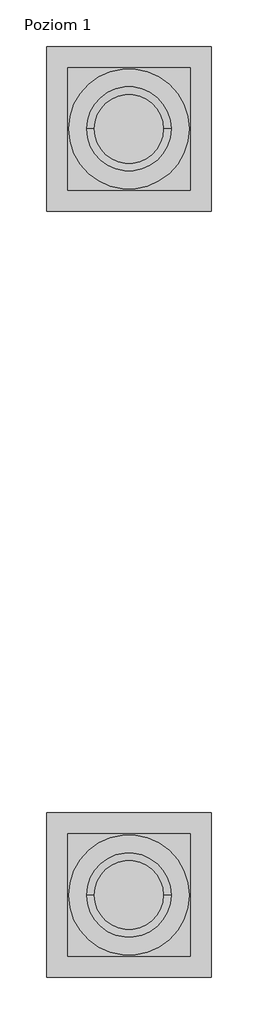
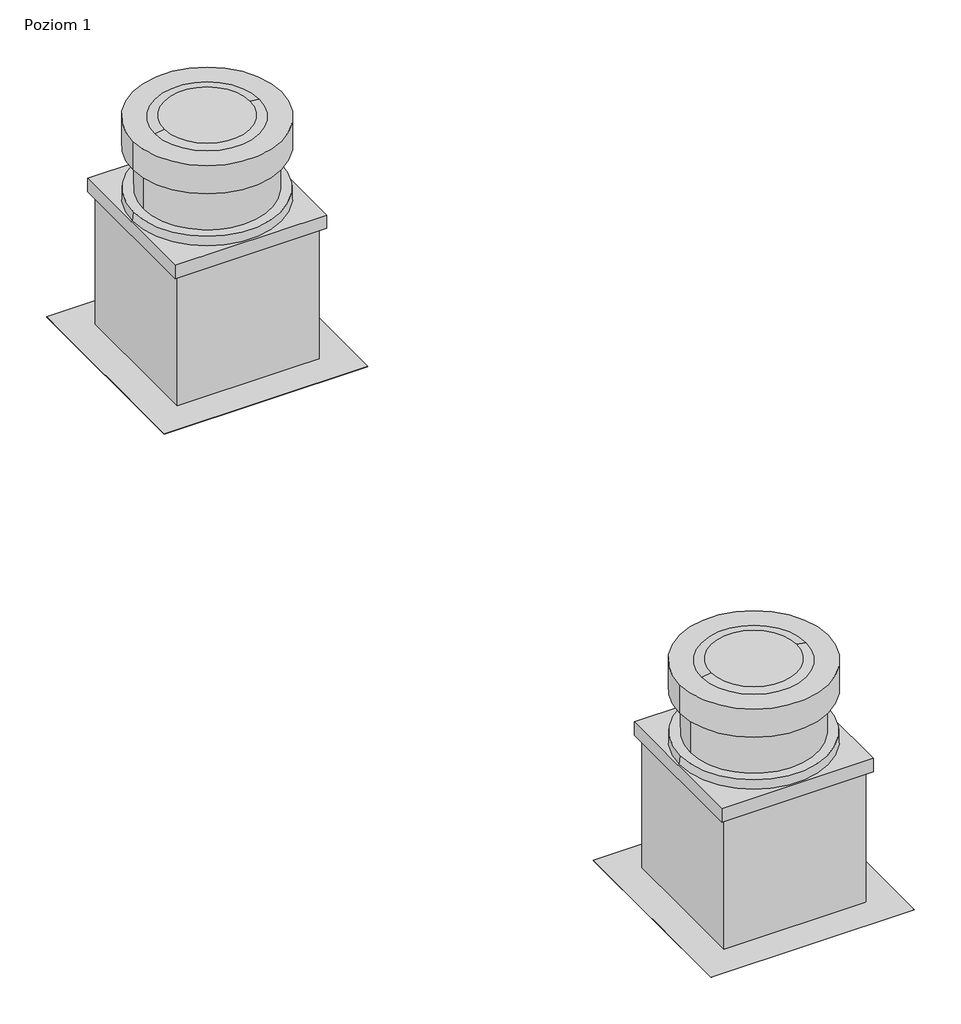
# One storey: 6 duct fittings, 2 unitary equipment elements.
"""IFC4 building model written with IfcOpenShell, lengths in millimetres."""

from ifc_helpers import new_model, si_unit, origin, place, context, project, spatial, transform, mapped, element, save
from components import duct_fitting_5dd8c60e, duct_fitting_a10b473f, duct_fitting_c5ec652e, unitary_equipment_4672604a

model = new_model("IFC4")

# Units and contexts
model_context = context("Model", 3, world=origin())
ifc_project = project(units=[si_unit("LENGTHUNIT", "METRE", prefix="MILLI")], contexts=[model_context])

# Site, building, storey
site = spatial("IfcSite", under=ifc_project)
building = spatial("IfcBuilding", under=site)
storey = spatial("IfcBuildingStorey", under=building, Name="Poziom 1", Elevation=0.0)

# Duct fittings
placement = place(None, origin())
duct_fitting_shape = duct_fitting_5dd8c60e(model_context)
element("IfcDuctFitting", 1, ObjectType="VE-Współdzielone-Króciec_Przyłączeniowy-ParaForma-Harmann-DAF : Harmann", at=placement, inside=storey, context=model_context, shape_type="MappedRepresentation", body=[
    mapped(duct_fitting_shape, transform((4582.5, -1000.0, -1.0), x_axis=(1.0, 0.0, 0.0), y_axis=(0.0, 1.0, 0.0), z_axis=(0.0, 0.0, 1.0))),
])
element("IfcDuctFitting", 2, ObjectType="VE-Współdzielone-Króciec_Przyłączeniowy-ParaForma-Harmann-DAF : Harmann", at=placement, inside=storey, context=model_context, shape_type="MappedRepresentation", body=[
    mapped(duct_fitting_shape, transform((4582.5, 1000.0, -1.0), x_axis=(1.0, 0.0, 0.0), y_axis=(0.0, 1.0, 0.0), z_axis=(0.0, 0.0, 1.0))),
])
duct_fitting_2_shape = duct_fitting_a10b473f(model_context)
element("IfcDuctFitting", 3, ObjectType="VE-Współdzielone-Płyta_Adaptacyjna-ParaForma-Harmann-DKP : Harmann", at=placement, inside=storey, context=model_context, shape_type="MappedRepresentation", body=[
    mapped(duct_fitting_2_shape, transform((4582.5, -1000.0, 0.0), x_axis=(1.0, 0.0, 0.0), y_axis=(0.0, 1.0, 0.0), z_axis=(0.0, 0.0, 1.0))),
])
element("IfcDuctFitting", 4, ObjectType="VE-Współdzielone-Płyta_Adaptacyjna-ParaForma-Harmann-DKP : Harmann", at=placement, inside=storey, context=model_context, shape_type="MappedRepresentation", body=[
    mapped(duct_fitting_2_shape, transform((4582.5, 1000.0, 0.0), x_axis=(1.0, 0.0, 0.0), y_axis=(0.0, 1.0, 0.0), z_axis=(0.0, 0.0, 1.0))),
])
duct_fitting_3_shape = duct_fitting_c5ec652e(model_context)
element("IfcDuctFitting", 5, ObjectType="VE-Współdzielone-Podstawa_Dachowa-ParaForma-Harmann-DSF_AL : Harmann", at=placement, inside=storey, context=model_context, shape_type="MappedRepresentation", body=[
    mapped(duct_fitting_3_shape, transform((4582.5, -1000.0, 0.0), x_axis=(1.0, 0.0, 0.0), y_axis=(0.0, 1.0, 0.0), z_axis=(0.0, 0.0, 1.0))),
])
element("IfcDuctFitting", 6, ObjectType="VE-Współdzielone-Podstawa_Dachowa-ParaForma-Harmann-DSF_AL : Harmann", at=placement, inside=storey, context=model_context, shape_type="MappedRepresentation", body=[
    mapped(duct_fitting_3_shape, transform((4582.5, 1000.0, 0.0), x_axis=(1.0, 0.0, 0.0), y_axis=(0.0, 1.0, 0.0), z_axis=(0.0, 0.0, 1.0))),
])

# Unitary equipment
unitary_equipment_shape = unitary_equipment_4672604a(model_context)
element("IfcUnitaryEquipment", 7, ObjectType="VE-Wentylator-ParaForma-Harmann-MONSTER_EC-Zestaw_z_Podstawą-Wywiewny : 190/800EC", at=placement, inside=storey, context=model_context, shape_type="MappedRepresentation", body=[
    mapped(unitary_equipment_shape, transform((4582.5, 1000.0, 0.0), x_axis=(1.0, 0.0, 0.0), y_axis=(0.0, 1.0, 0.0), z_axis=(0.0, 0.0, 1.0))),
])
element("IfcUnitaryEquipment", 8, ObjectType="VE-Wentylator-ParaForma-Harmann-MONSTER_EC-Zestaw_z_Podstawą-Wywiewny : 220/1200EC", at=placement, inside=storey, context=model_context, shape_type="MappedRepresentation", body=[
    mapped(unitary_equipment_shape, transform((4582.5, -1000.0, 0.0), x_axis=(1.0, 0.0, 0.0), y_axis=(0.0, 1.0, 0.0), z_axis=(0.0, 0.0, 1.0))),
])

save(model, "model.ifc")
